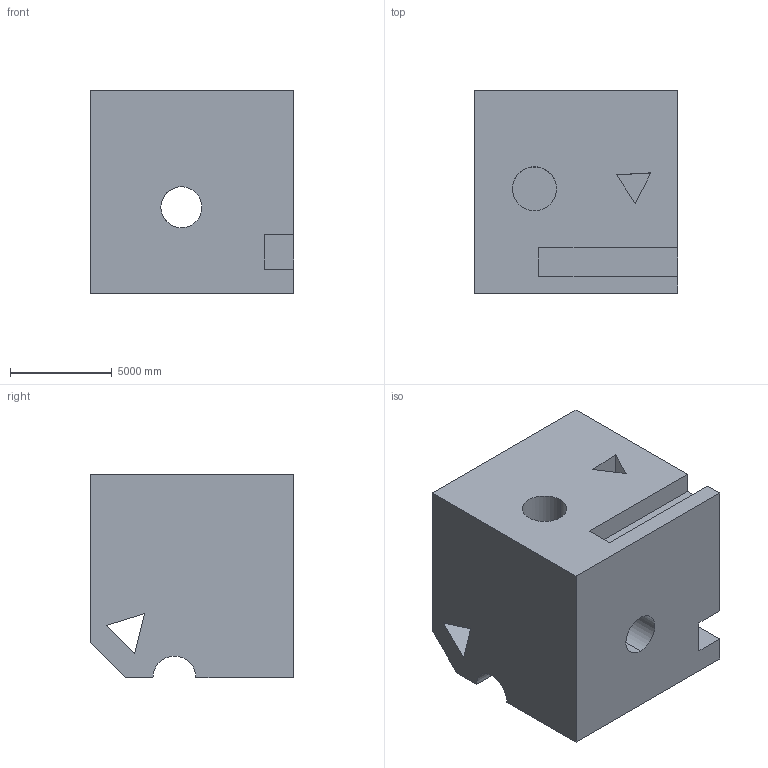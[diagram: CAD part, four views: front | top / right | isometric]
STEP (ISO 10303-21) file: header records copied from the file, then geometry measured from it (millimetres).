
FILE_DESCRIPTION (( 'STEP AP203' ), '1' );
FILE_NAME ('821.STEP', '2022-07-29T13:27:55', ( 'user' ), ( '' ), 'SwSTEP 2.0', 'SolidWorks 2021', '' );
FILE_SCHEMA (( 'CONFIG_CONTROL_DESIGN' ));
Length unit declared in the file: centimetre
Products named in the file (1): 821
Bounding box: 10000 x 10000 x 10000 mm (x, y, z)
Volume: 858155098496.2 mm3; surface area: 831099771.2 mm2
Topology: 1 solids, 1 shells, 33 faces, 87 edges, 58 vertices
Faces by surface type: plane 28, cylinder 5
Entity records: 1440 total; most frequent: CARTESIAN_POINT 523, ORIENTED_EDGE 174, DIRECTION 163, EDGE_CURVE 87, LINE 75, VECTOR 75, VERTEX_POINT 58, AXIS2_PLACEMENT_3D 44
